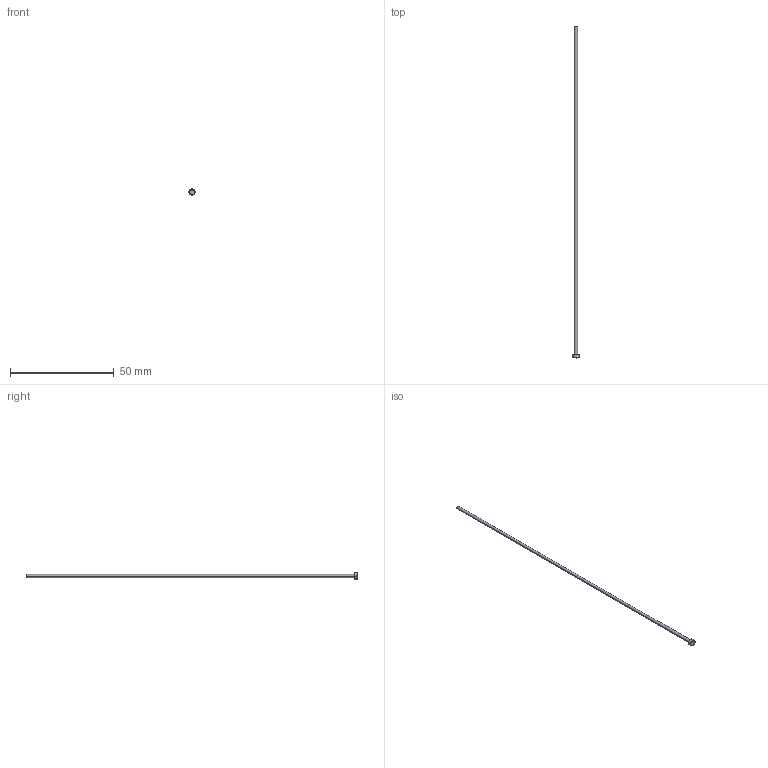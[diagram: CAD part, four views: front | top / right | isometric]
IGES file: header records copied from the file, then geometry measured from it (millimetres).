
Start section: SolidWorks IGES file using analytic representation for surfaces
Global section: file name: C:\Users\User\Downloads\Matripeça 31-08 tar\PB - PINO EXTRATOR TIPO _B_ (CATÁLOGO)\PB01,5\PB01,5160.IGS; native system: SolidWorks 2024; preprocessor: SolidWorks 2024; author: User; date: 260901.140002; units: millimetre
Bounding box: 3 x 160 x 3 mm (x, y, z)
Surface area: 777.1 mm2 (no closed solid volume)
Topology: 0 solids, 0 shells, 395 faces, 2617 edges, 2617 vertices
Faces by surface type: bspline 381, revolution 14
